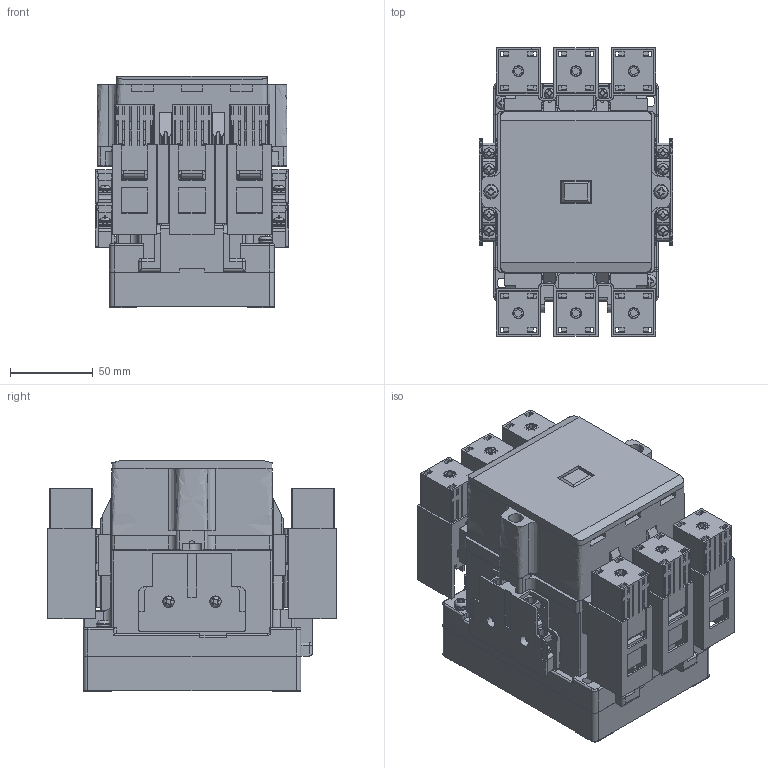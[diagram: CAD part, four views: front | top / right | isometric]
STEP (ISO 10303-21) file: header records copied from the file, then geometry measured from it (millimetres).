
FILE_DESCRIPTION (( 'STEP AP214' ), '1' );
FILE_NAME ('SC-E7.STEP', '2016-04-05T05:53:33', ( '川崎工場' ), ( '富士電機株式会社' ), 'SwSTEP 2.0', 'SolidWorks 2015', '' );
FILE_SCHEMA (( 'AUTOMOTIVE_DESIGN' ));
Length unit declared in the file: millimetre
Products named in the file (30): SC-N-Copper band2; SC-N-Copper band1; SC-E7; SC-N-Auxiliary terminal unit_case; Springwasher_M3P5; Screw_M3.5_L10; SC-N-Teminal cover; Plate_M3P5_7P7; SC-E7_connecting terminal coil; SC-E7_Finger protection part2; SC-E7_Finger protection part1; SC-E7_Terminal plate left side; Screw_M4^SC-E7; SC-E7_Terminal plate right side; Washer_M4; SC-E7_Terminal plate center; Springwasher_M4; Box terminal^SC-E7; Screw_M4_L30; SC-E7_Box terminal structure part2; SC-E7_Switch; SC-E7_Box terminal structure part1; SC-E-Auxiliary terminal unit with terminal cover; hexagon socket set screw M8L35; Washer_M3P5; SC-E7_Upper Case; Screw_M3.5_L14; SC-E7_Lower Case; ScrewM3P5L10_Set; SC-E7_Lower Case base
Assembly tree (70 placements, depth 4):
  SC-E7
    SC-E7_Lower Case base
    SC-E7_Lower Case
    SC-E7_Upper Case
    Box terminal^SC-E7  x8
      hexagon socket set screw M8L35
      SC-E7_Box terminal structure part1
      SC-E7_Box terminal structure part2
    SC-E7_Terminal plate center  x2
    SC-E7_Terminal plate right side  x2
    SC-E7_Terminal plate left side  x2
    SC-E7_Finger protection part1  x2
    SC-E7_Finger protection part2  x8
    SC-E7_connecting terminal coil  x2
    Plate_M3P5_7P7  x2
    SC-N-Teminal cover  x2
    Screw_M3.5_L10  x2
    Springwasher_M3P5  x2
    SC-E-Auxiliary terminal unit with terminal cover  x2
      SC-N-Auxiliary terminal unit_case
      SC-N-Copper band1
      SC-N-Copper band2
      ScrewM3P5L10_Set
        Plate_M3P5_7P7
        Springwasher_M3P5
        Screw_M3.5_L10
      Screw_M3.5_L14
      Springwasher_M3P5
      Washer_M3P5
      SC-N-Teminal cover
    SC-E7_Switch
    Screw_M4^SC-E7  x2
      Screw_M4_L30
      Springwasher_M4
      Washer_M4
    Screw_M4_L30  x2
Bounding box: 117.4 x 174.6 x 140 mm (x, y, z)
Volume: 1425194.7 mm3; surface area: 483514.9 mm2
Topology: 113 solids, 113 shells, 5120 faces, 14728 edges, 9697 vertices
Faces by surface type: plane 4093, cylinder 885, cone 54, torus 45, bspline 40, sphere 3
Full cylindrical faces by diameter (mm): 3 x8, 3.3 x4, 3.5 x38, 3.8 x8, 4 x12, 4.3 x2, 6.5 x8, 6.6 x8, 7 x8, 8 x10, 8.8 x2
Entity records: 59331 total; most frequent: CARTESIAN_POINT 12475, ORIENTED_EDGE 9776, DIRECTION 9028, EDGE_CURVE 4888, VECTOR 3814, LINE 3814, VERTEX_POINT 3250, AXIS2_PLACEMENT_3D 2607
